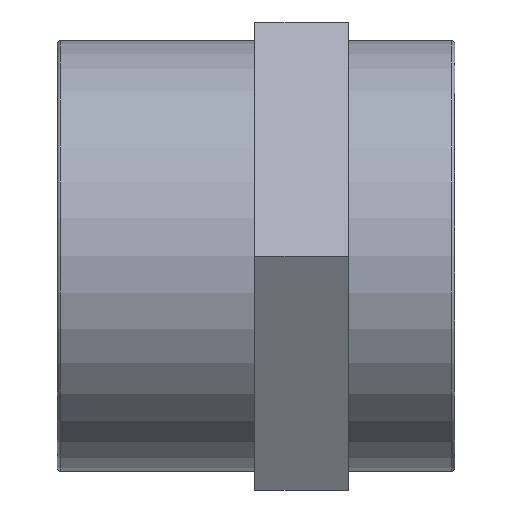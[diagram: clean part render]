
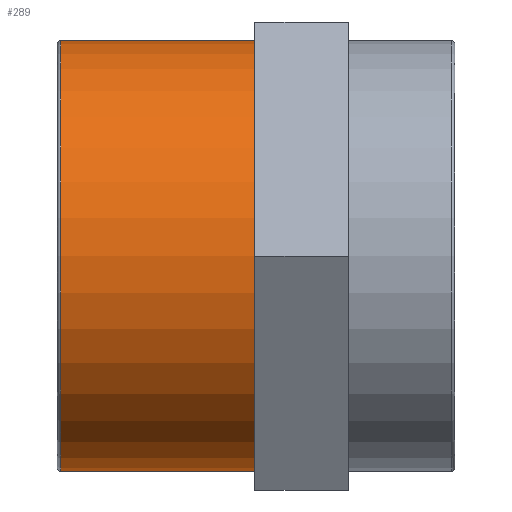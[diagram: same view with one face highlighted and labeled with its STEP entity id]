
A CAD part, top view. The second image highlights one B-rep face of the part: STEP entity #289.
In plain terms, the highlighted cylindrical face has radius 36.826 mm (diameter 73.653 mm), a full revolution.
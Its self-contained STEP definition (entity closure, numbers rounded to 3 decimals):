
#54=CYLINDRICAL_SURFACE('',#323,36.826);
#77=FACE_BOUND('',#123,.T.);
#92=FACE_OUTER_BOUND('',#122,.T.);
#122=EDGE_LOOP('',(#230));
#123=EDGE_LOOP('',(#231));
#150=CIRCLE('',#322,36.826);
#151=CIRCLE('',#324,36.826);
#164=VERTEX_POINT('',#458);
#165=VERTEX_POINT('',#461);
#190=EDGE_CURVE('',#164,#164,#150,.T.);
#191=EDGE_CURVE('',#165,#165,#151,.T.);
#230=ORIENTED_EDGE('',*,*,#191,.T.);
#231=ORIENTED_EDGE('',*,*,#190,.F.);
#289=ADVANCED_FACE('',(#92,#77),#54,.T.);
#322=AXIS2_PLACEMENT_3D('',#459,#378,#379);
#323=AXIS2_PLACEMENT_3D('',#460,#380,#381);
#324=AXIS2_PLACEMENT_3D('',#462,#382,#383);
#378=DIRECTION('center_axis',(-1.,0.,0.));
#379=DIRECTION('ref_axis',(0.,1.,0.));
#380=DIRECTION('center_axis',(-1.,0.,0.));
#381=DIRECTION('ref_axis',(0.,-1.,0.));
#382=DIRECTION('center_axis',(-1.,0.,0.));
#383=DIRECTION('ref_axis',(0.,0.,1.));
#458=CARTESIAN_POINT('',(-33.433,-36.826,0.));
#459=CARTESIAN_POINT('Origin',(-33.433,0.,0.));
#460=CARTESIAN_POINT('Origin',(-17.1,0.,0.));
#461=CARTESIAN_POINT('',(-0.2,-36.826,0.));
#462=CARTESIAN_POINT('Origin',(-0.2,0.,
0.));
